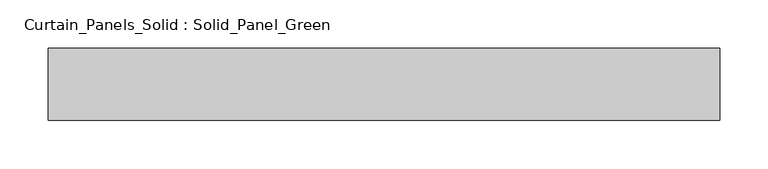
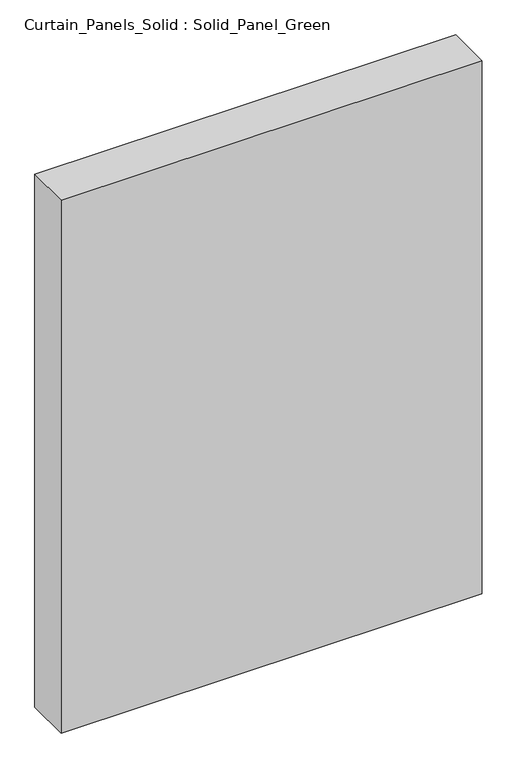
"""IFC4 building model written with IfcOpenShell, lengths in millimetres: plate geometry, Curtain_Panels_Solid : Solid_Panel_Green."""

from ifc_helpers import new_model, si_unit, origin, origin_with_axes, place, context, project, spatial, polyline, outline, extrude, source, transform, mapped, element, save


def curtain_panels_solid_solid_panel_green_24dec728(model_context):
    return source(origin(), model_context, "Body", "SweptSolid", [
        extrude(outline(polyline([(348.7500001, 25.0), (348.7500001, -50.0), (-348.7500001, -50.0), (-348.7500001, 25.0), (348.7500001, 25.0)])), origin_with_axes(), (0.0, 0.0, 1.0), 932.5),
    ])


if __name__ == "__main__":
    model = new_model("IFC4")
    model_context = context("Model", 3, world=origin())
    ifc_project = project(units=[si_unit("LENGTHUNIT", "METRE", prefix="MILLI")], contexts=[model_context])
    site = spatial("IfcSite", under=ifc_project)
    building = spatial("IfcBuilding", under=site)
    placement = place(None, origin())
    curtain_panels_solid_solid_panel_green_shape = curtain_panels_solid_solid_panel_green_24dec728(model_context)
    element("IfcPlate", 1, ObjectType="Curtain_Panels_Solid : Solid_Panel_Green", at=placement, inside=building, context=model_context, shape_type="MappedRepresentation", body=[
        mapped(curtain_panels_solid_solid_panel_green_shape, transform((0.0, 0.0, 0.0), x_axis=(1.0, 0.0, 0.0), y_axis=(0.0, 1.0, 0.0), z_axis=(0.0, 0.0, 1.0))),
    ])
    save(model, "model.ifc")
